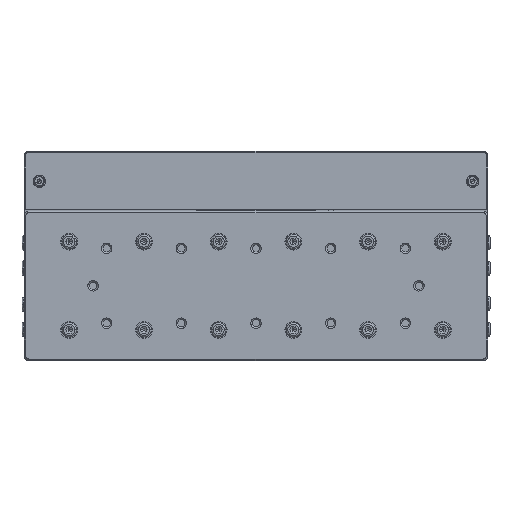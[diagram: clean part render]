
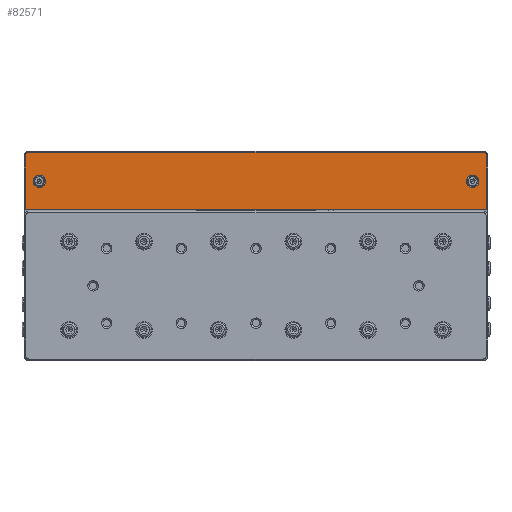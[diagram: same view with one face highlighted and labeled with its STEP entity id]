
A CAD part, top view. The second image highlights one B-rep face of the part: STEP entity #82571.
In plain terms, the highlighted planar face has unit normal (0, 0, 1).
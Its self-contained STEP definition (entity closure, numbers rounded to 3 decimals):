
#1441 = VERTEX_POINT ( 'NONE', #48507 ) ;
#3137 = EDGE_LOOP ( 'NONE', ( #73231, #68840 ) ) ;
#3384 = AXIS2_PLACEMENT_3D ( 'NONE', #5606, #31727, #6868 ) ;
#3726 = AXIS2_PLACEMENT_3D ( 'NONE', #54741, #23097, #60661 ) ;
#5007 = LINE ( 'NONE', #44198, #27881 ) ;
#5140 = DIRECTION ( 'NONE',  ( -1., 0., 0. ) ) ;
#5214 = CARTESIAN_POINT ( 'NONE',  ( 140.875, 70., 30. ) ) ;
#5420 = VECTOR ( 'NONE', #5140, 1000. ) ;
#5606 = CARTESIAN_POINT ( 'NONE',  ( -145., 70., 30. ) ) ;
#6868 = DIRECTION ( 'NONE',  ( 1., 0., 0. ) ) ;
#8137 = VECTOR ( 'NONE', #48957, 1000. ) ;
#8930 = EDGE_CURVE ( 'NONE', #74018, #45518, #37138, .T. ) ;
#10180 = LINE ( 'NONE', #30391, #8137 ) ;
#10788 = EDGE_CURVE ( 'NONE', #16134, #74018, #5007, .T. ) ;
#11055 = VERTEX_POINT ( 'NONE', #79189 ) ;
#11948 = EDGE_LOOP ( 'NONE', ( #27071, #36325 ) ) ;
#14090 = EDGE_CURVE ( 'NONE', #11055, #16134, #63881, .T. ) ;
#16134 = VERTEX_POINT ( 'NONE', #62690 ) ;
#16389 = ORIENTED_EDGE ( 'NONE', *, *, #8930, .T. ) ;
#18065 = ORIENTED_EDGE ( 'NONE', *, *, #14090, .T. ) ;
#20439 = VERTEX_POINT ( 'NONE', #52255 ) ;
#20547 = VECTOR ( 'NONE', #50202, 1000. ) ;
#20878 = CIRCLE ( 'NONE', #3384, 4.125 ) ;
#21694 = AXIS2_PLACEMENT_3D ( 'NONE', #44506, #38161, #63898 ) ;
#23097 = DIRECTION ( 'NONE',  ( 0., 0., 1. ) ) ;
#23768 = DIRECTION ( 'NONE',  ( 1., 0., 0. ) ) ;
#24485 = CARTESIAN_POINT ( 'NONE',  ( 0., 51., 30. ) ) ;
#26761 = CIRCLE ( 'NONE', #42932, 2.5 ) ;
#27071 = ORIENTED_EDGE ( 'NONE', *, *, #52381, .T. ) ;
#27569 = AXIS2_PLACEMENT_3D ( 'NONE', #34586, #60311, #33755 ) ;
#27881 = VECTOR ( 'NONE', #30717, 1000. ) ;
#28443 = EDGE_CURVE ( 'NONE', #69711, #11055, #37990, .T. ) ;
#28567 = ORIENTED_EDGE ( 'NONE', *, *, #10788, .T. ) ;
#29851 = FACE_BOUND ( 'NONE', #3137, .T. ) ;
#30391 = CARTESIAN_POINT ( 'NONE',  ( 154.5, 0., 30. ) ) ;
#30717 = DIRECTION ( 'NONE',  ( 0., -1., 0. ) ) ;
#30915 = CARTESIAN_POINT ( 'NONE',  ( -145., 70., 30. ) ) ;
#31727 = DIRECTION ( 'NONE',  ( 0., 0., -1. ) ) ;
#32148 = DIRECTION ( 'NONE',  ( 0., 0., -1. ) ) ;
#32562 = DIRECTION ( 'NONE',  ( 1., 0., 0. ) ) ;
#33755 = DIRECTION ( 'NONE',  ( -1., 0., 0. ) ) ;
#34054 = VERTEX_POINT ( 'NONE', #48534 ) ;
#34586 = CARTESIAN_POINT ( 'NONE',  ( -152., 87., 30. ) ) ;
#36325 = ORIENTED_EDGE ( 'NONE', *, *, #52434, .T. ) ;
#37138 = LINE ( 'NONE', #24485, #20547 ) ;
#37990 = LINE ( 'NONE', #58227, #5420 ) ;
#38161 = DIRECTION ( 'NONE',  ( 0., 0., -1. ) ) ;
#42488 = PLANE ( 'NONE',  #3726 ) ;
#42515 = EDGE_LOOP ( 'NONE', ( #65800, #78185, #18065, #28567, #16389, #67465 ) ) ;
#42533 = CIRCLE ( 'NONE', #46587, 4.125 ) ;
#42932 = AXIS2_PLACEMENT_3D ( 'NONE', #57298, #81364, #50123 ) ;
#44198 = CARTESIAN_POINT ( 'NONE',  ( -154.5, 0., 30. ) ) ;
#44298 = VERTEX_POINT ( 'NONE', #80932 ) ;
#44506 = CARTESIAN_POINT ( 'NONE',  ( 145., 70., 30. ) ) ;
#45518 = VERTEX_POINT ( 'NONE', #61681 ) ;
#46587 = AXIS2_PLACEMENT_3D ( 'NONE', #68886, #62154, #23768 ) ;
#48507 = CARTESIAN_POINT ( 'NONE',  ( 149.125, 70., 30. ) ) ;
#48534 = CARTESIAN_POINT ( 'NONE',  ( 154.5, 87., 30. ) ) ;
#48957 = DIRECTION ( 'NONE',  ( 0., 1., 0. ) ) ;
#50123 = DIRECTION ( 'NONE',  ( -1., 0., 0. ) ) ;
#50202 = DIRECTION ( 'NONE',  ( 1., 0., 0. ) ) ;
#52255 = CARTESIAN_POINT ( 'NONE',  ( -149.125, 70., 30. ) ) ;
#52381 = EDGE_CURVE ( 'NONE', #44298, #20439, #20878, .T. ) ;
#52434 = EDGE_CURVE ( 'NONE', #20439, #44298, #82793, .T. ) ;
#53516 = EDGE_CURVE ( 'NONE', #1441, #67893, #42533, .T. ) ;
#54741 = CARTESIAN_POINT ( 'NONE',  ( 0., 0., 30. ) ) ;
#55168 = FACE_BOUND ( 'NONE', #11948, .T. ) ;
#57298 = CARTESIAN_POINT ( 'NONE',  ( 152., 87., 30. ) ) ;
#58227 = CARTESIAN_POINT ( 'NONE',  ( 0., 89.5, 30. ) ) ;
#59051 = EDGE_CURVE ( 'NONE', #45518, #34054, #10180, .T. ) ;
#60311 = DIRECTION ( 'NONE',  ( 0., 0., 1. ) ) ;
#60661 = DIRECTION ( 'NONE',  ( 1., 0., 0. ) ) ;
#61681 = CARTESIAN_POINT ( 'NONE',  ( 154.5, 51., 30. ) ) ;
#62154 = DIRECTION ( 'NONE',  ( 0., 0., -1. ) ) ;
#62690 = CARTESIAN_POINT ( 'NONE',  ( -154.5, 87., 30. ) ) ;
#63881 = CIRCLE ( 'NONE', #27569, 2.5 ) ;
#63898 = DIRECTION ( 'NONE',  ( 1., 0., 0. ) ) ;
#63965 = AXIS2_PLACEMENT_3D ( 'NONE', #30915, #32148, #32562 ) ;
#65220 = EDGE_CURVE ( 'NONE', #34054, #69711, #26761, .T. ) ;
#65800 = ORIENTED_EDGE ( 'NONE', *, *, #65220, .T. ) ;
#67465 = ORIENTED_EDGE ( 'NONE', *, *, #59051, .T. ) ;
#67722 = EDGE_CURVE ( 'NONE', #67893, #1441, #80919, .T. ) ;
#67893 = VERTEX_POINT ( 'NONE', #5214 ) ;
#68840 = ORIENTED_EDGE ( 'NONE', *, *, #67722, .T. ) ;
#68886 = CARTESIAN_POINT ( 'NONE',  ( 145., 70., 30. ) ) ;
#69711 = VERTEX_POINT ( 'NONE', #73402 ) ;
#73231 = ORIENTED_EDGE ( 'NONE', *, *, #53516, .T. ) ;
#73402 = CARTESIAN_POINT ( 'NONE',  ( 152., 89.5, 30. ) ) ;
#74018 = VERTEX_POINT ( 'NONE', #82783 ) ;
#78185 = ORIENTED_EDGE ( 'NONE', *, *, #28443, .T. ) ;
#79189 = CARTESIAN_POINT ( 'NONE',  ( -152., 89.5, 30. ) ) ;
#80881 = FACE_OUTER_BOUND ( 'NONE', #42515, .T. ) ;
#80919 = CIRCLE ( 'NONE', #21694, 4.125 ) ;
#80932 = CARTESIAN_POINT ( 'NONE',  ( -140.875, 70., 30. ) ) ;
#81364 = DIRECTION ( 'NONE',  ( 0., 0., 1. ) ) ;
#82571 = ADVANCED_FACE ( 'NONE', ( #55168, #29851, #80881 ), #42488, .T. ) ;
#82783 = CARTESIAN_POINT ( 'NONE',  ( -154.5, 51., 30. ) ) ;
#82793 = CIRCLE ( 'NONE', #63965, 4.125 ) ;
